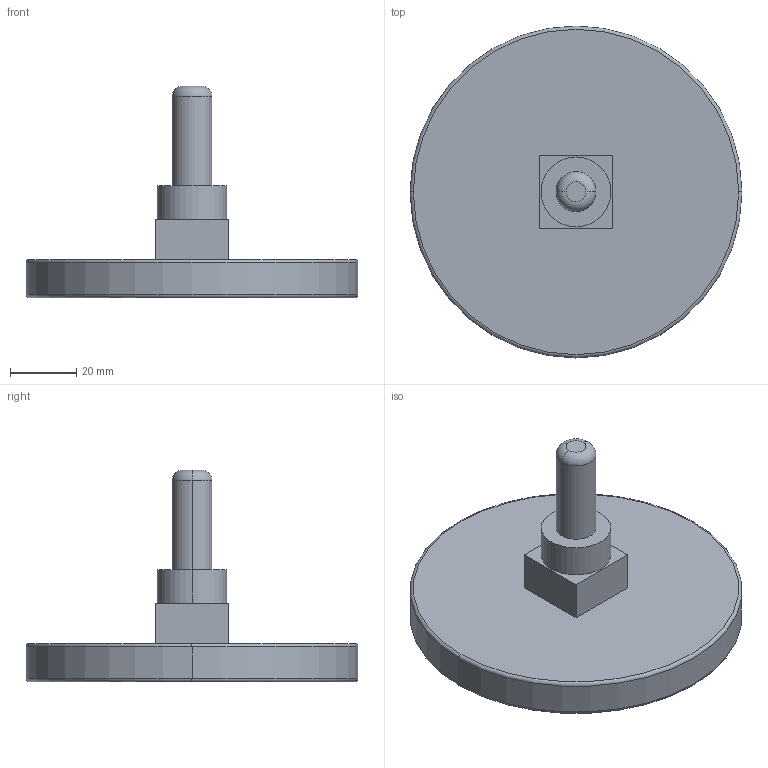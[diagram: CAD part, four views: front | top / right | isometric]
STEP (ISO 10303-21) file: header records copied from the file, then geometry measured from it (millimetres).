
FILE_DESCRIPTION (( 'STEP AP214' ), '1' );
FILE_NAME ('Termometr_bimetaliczny_x_0_3D_AFRISO.STEP', '2022-12-16T14:01:00', ( '' ), ( '' ), 'SwSTEP 2.0', 'SolidWorks 2022', '' );
FILE_SCHEMA (( 'AUTOMOTIVE_DESIGN' ));
Length unit declared in the file: millimetre
Products named in the file (1): Termometr_bimetaliczny_x_0_3D_AFRISO
Bounding box: 100 x 100 x 63.7 mm (x, y, z)
Volume: 102883.2 mm3; surface area: 21862 mm2
Topology: 1 solids, 1 shells, 21 faces, 42 edges, 26 vertices
Faces by surface type: plane 9, torus 6, cylinder 6
Entity records: 586 total; most frequent: DIRECTION 110, CARTESIAN_POINT 90, ORIENTED_EDGE 84, AXIS2_PLACEMENT_3D 46, EDGE_CURVE 42, VERTEX_POINT 26, CIRCLE 24, EDGE_LOOP 24
